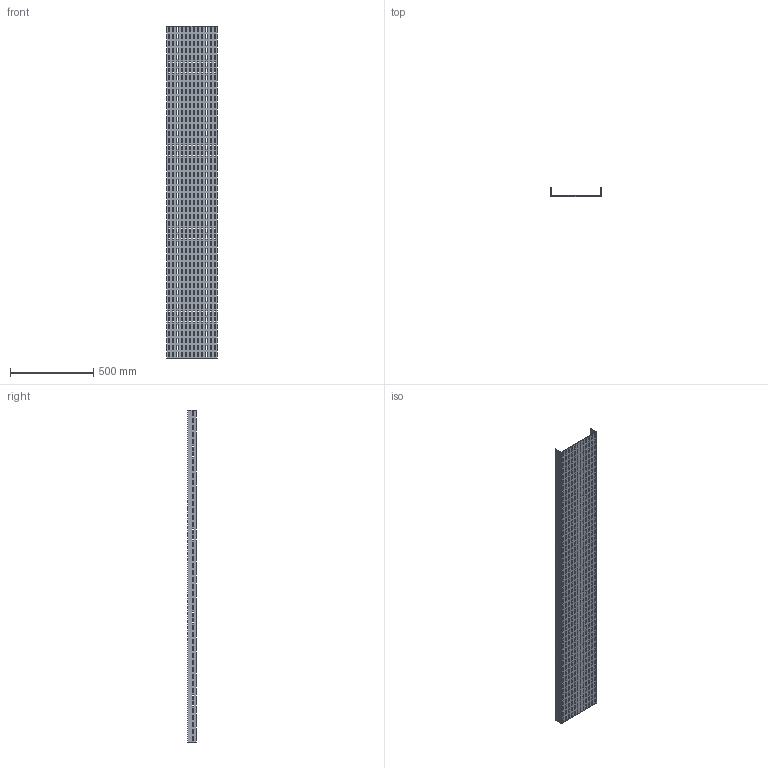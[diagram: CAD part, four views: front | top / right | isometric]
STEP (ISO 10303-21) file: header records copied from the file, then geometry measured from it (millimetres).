
FILE_DESCRIPTION (( 'STEP AP214' ), '1' );
FILE_NAME ('01F2B300.step', '2025-02-21T13:17:41', ( '' ), ( '' ), 'SwSTEP 2.0', 'SolidWorks 2023', '' );
FILE_SCHEMA (( 'AUTOMOTIVE_DESIGN' ));
Products named in the file (1): 01F2B300
Bounding box: 304 x 52 x 2000 mm (x, y, z)
Volume: 2395400 mm3; surface area: 1536135 mm2
Topology: 1 solids, 1 shells, 2698 faces, 8088 edges, 5392 vertices
Faces by surface type: plane 2698
Entity records: 91703 total; most frequent: CARTESIAN_POINT 16179, ORIENTED_EDGE 16176, DIRECTION 13486, LINE 8088, EDGE_CURVE 8088, VECTOR 8088, VERTEX_POINT 5392, EDGE_LOOP 4042
